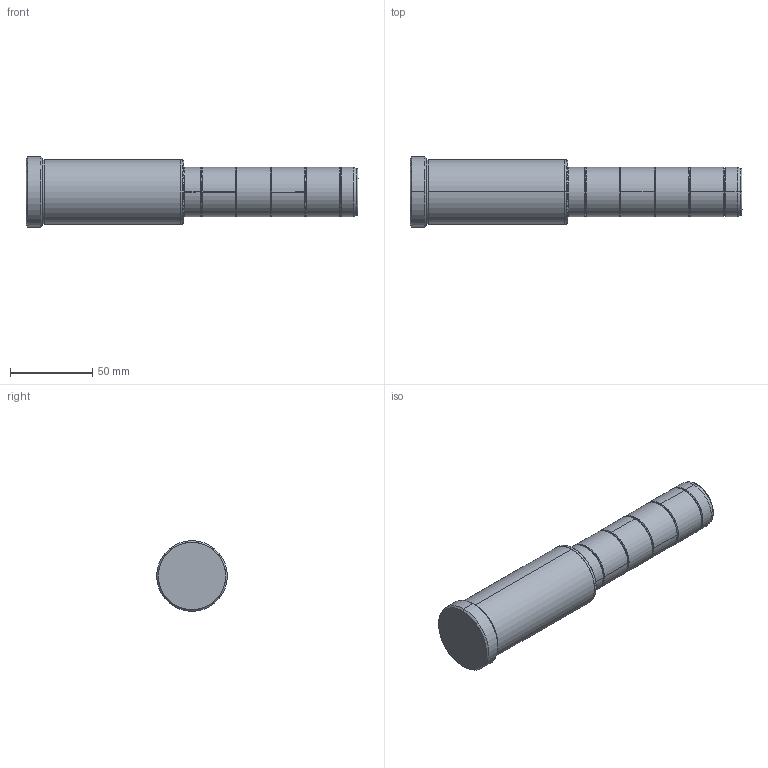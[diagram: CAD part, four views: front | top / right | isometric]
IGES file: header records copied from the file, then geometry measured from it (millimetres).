
Start section: SolidWorks IGES file using analytic representation for surfaces
Global section: file name: C:\Users\Dell\Desktop\deltakont\kontrol edilecekler\D02\Ø30\D02_30x96x106.IGS; native system: SolidWorks 2010; preprocessor: SolidWorks 2010; author: Dell; date: 111226.222956; units: millimetre
Bounding box: 202 x 43 x 43 mm (x, y, z)
Surface area: 24734.2 mm2 (no closed solid volume)
Topology: 0 solids, 0 shells, 59 faces, 811 edges, 811 vertices
Faces by surface type: bspline 30, revolution 29
